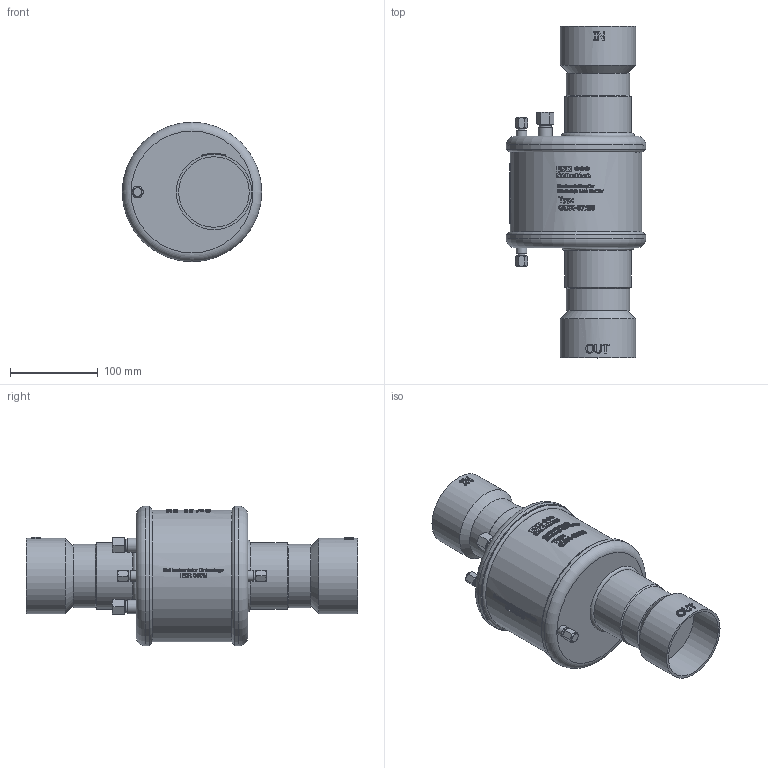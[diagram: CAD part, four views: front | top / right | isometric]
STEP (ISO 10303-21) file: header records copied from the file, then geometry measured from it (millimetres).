
FILE_DESCRIPTION(/* description */ (''),/* implementation_level */ '2;1');
FILE_NAME(/* name */ 'P:\GD\GDX-67_80\GDX-67_80.stp',/* time_stamp */ '2017-10-05T08:34:51+02:00',/* author */ ('neufeld'),/* organization */ (''),/* preprocessor_version */ 'ST-DEVELOPER v16.1',/* originating_system */ 'Autodesk Inventor 2016',/* authorisation */ '');
FILE_SCHEMA (('AUTOMOTIVE_DESIGN { 1 0 10303 214 3 1 1 }'));
Products named in the file (2): GDX-67_80; GDX-67_80_1
Assembly tree (1 placements, depth 2):
  GDX-67_80_1
    GDX-67_80
Bounding box: 158.8 x 378 x 158.8 mm (x, y, z)
Volume: 3147783.4 mm3; surface area: 193113.8 mm2
Topology: 1 solids, 1 shells, 1693 faces, 4533 edges, 3006 vertices
Faces by surface type: plane 861, bspline 615, cylinder 167, cone 42, torus 8
Full cylindrical faces by diameter (mm): 8.9 x2, 12 x2, 13.8 x2, 15.7 x2, 16 x2, 72.5 x2, 75.4 x2, 80.3 x2, 86 x2, 150 x1, 158.8 x2
Entity records: 65277 total; most frequent: CARTESIAN_POINT 26538, ORIENTED_EDGE 8956, DIRECTION 6410, EDGE_CURVE 4478, VERTEX_POINT 2998, AXIS2_PLACEMENT_3D 2153, LINE 2104, VECTOR 2104
